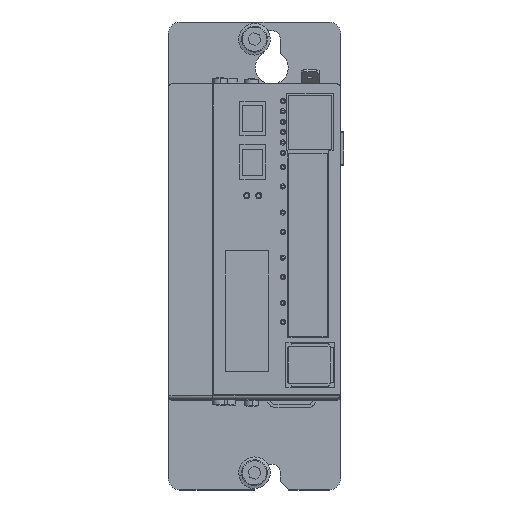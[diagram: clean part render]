
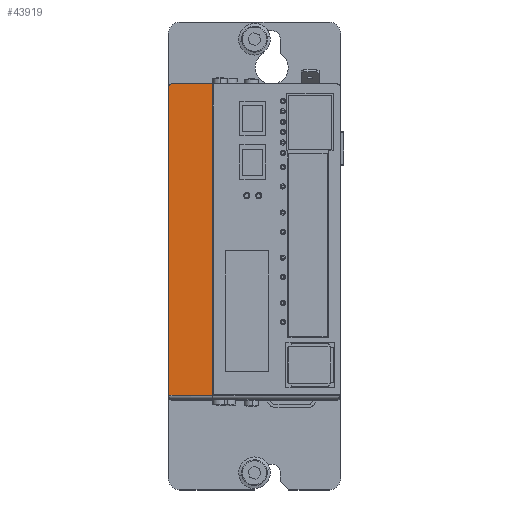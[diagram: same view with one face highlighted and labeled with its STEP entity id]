
A CAD part, top view. The second image highlights one B-rep face of the part: STEP entity #43919.
In plain terms, the highlighted planar face has unit normal (0, 0, 1).
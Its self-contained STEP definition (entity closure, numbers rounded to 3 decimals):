
#1512 = CARTESIAN_POINT ( 'NONE',  ( -29.797, 55., 193.5 ) ) ;
#1787 = DIRECTION ( 'NONE',  ( 1., 0., 0. ) ) ;
#3079 = DIRECTION ( 'NONE',  ( -1., 0., 0. ) ) ;
#4107 = EDGE_LOOP ( 'NONE', ( #25784, #28387, #36465, #44751, #30450 ) ) ;
#5192 = CARTESIAN_POINT ( 'NONE',  ( -29.797, -53.509, 193.5 ) ) ;
#6029 = VECTOR ( 'NONE', #52202, 1000. ) ;
#8355 = VECTOR ( 'NONE', #21067, 1000. ) ;
#10868 = VERTEX_POINT ( 'NONE', #5192 ) ;
#11706 = PLANE ( 'NONE',  #52318 ) ;
#11980 = DIRECTION ( 'NONE',  ( 0., 0., 1. ) ) ;
#12637 = EDGE_CURVE ( 'NONE', #35757, #10868, #20145, .T. ) ;
#18360 = VECTOR ( 'NONE', #3079, 1000. ) ;
#19686 = CARTESIAN_POINT ( 'NONE',  ( -14.5, -53.509, 193.5 ) ) ;
#20145 = LINE ( 'NONE', #37312, #18360 ) ;
#21067 = DIRECTION ( 'NONE',  ( 0., 1., 0. ) ) ;
#21162 = EDGE_CURVE ( 'NONE', #39315, #28143, #47384, .T. ) ;
#22831 = CARTESIAN_POINT ( 'NONE',  ( -29.797, -55., 193.5 ) ) ;
#22921 = DIRECTION ( 'NONE',  ( 0., -1., 0. ) ) ;
#25116 = LINE ( 'NONE', #41830, #8355 ) ;
#25784 = ORIENTED_EDGE ( 'NONE', *, *, #48817, .F. ) ;
#26157 = DIRECTION ( 'NONE',  ( 0., 0., -1. ) ) ;
#28143 = VERTEX_POINT ( 'NONE', #46316 ) ;
#28387 = ORIENTED_EDGE ( 'NONE', *, *, #38971, .F. ) ;
#28640 = DIRECTION ( 'NONE',  ( 0., -1., 0. ) ) ;
#30147 = VECTOR ( 'NONE', #1787, 1000. ) ;
#30450 = ORIENTED_EDGE ( 'NONE', *, *, #21162, .F. ) ;
#30678 = LINE ( 'NONE', #22831, #6029 ) ;
#32393 = CARTESIAN_POINT ( 'NONE',  ( -28.497, 55., 193.5 ) ) ;
#34686 = VERTEX_POINT ( 'NONE', #42488 ) ;
#35757 = VERTEX_POINT ( 'NONE', #19686 ) ;
#36287 = FACE_OUTER_BOUND ( 'NONE', #4107, .T. ) ;
#36465 = ORIENTED_EDGE ( 'NONE', *, *, #12637, .F. ) ;
#37312 = CARTESIAN_POINT ( 'NONE',  ( -29.997, -53.509, 193.5 ) ) ;
#38971 = EDGE_CURVE ( 'NONE', #10868, #34686, #30678, .T. ) ;
#39315 = VERTEX_POINT ( 'NONE', #32393 ) ;
#40430 = CARTESIAN_POINT ( 'NONE',  ( -29.797, -55., 193.5 ) ) ;
#41830 = CARTESIAN_POINT ( 'NONE',  ( -14.5, -55., 193.5 ) ) ;
#42488 = CARTESIAN_POINT ( 'NONE',  ( -29.797, 54.248, 193.5 ) ) ;
#43919 = ADVANCED_FACE ( 'NONE', ( #36287 ), #11706, .T. ) ;
#44274 = CIRCLE ( 'NONE', #53112, 1.5 ) ;
#44751 = ORIENTED_EDGE ( 'NONE', *, *, #48708, .T. ) ;
#46316 = CARTESIAN_POINT ( 'NONE',  ( -14.5, 55., 193.5 ) ) ;
#47384 = LINE ( 'NONE', #1512, #30147 ) ;
#48708 = EDGE_CURVE ( 'NONE', #35757, #28143, #25116, .T. ) ;
#48817 = EDGE_CURVE ( 'NONE', #34686, #39315, #44274, .T. ) ;
#52202 = DIRECTION ( 'NONE',  ( 0., 1., 0. ) ) ;
#52300 = CARTESIAN_POINT ( 'NONE',  ( -28.497, 53.5, 193.5 ) ) ;
#52318 = AXIS2_PLACEMENT_3D ( 'NONE', #40430, #11980, #28640 ) ;
#53112 = AXIS2_PLACEMENT_3D ( 'NONE', #52300, #26157, #22921 ) ;
